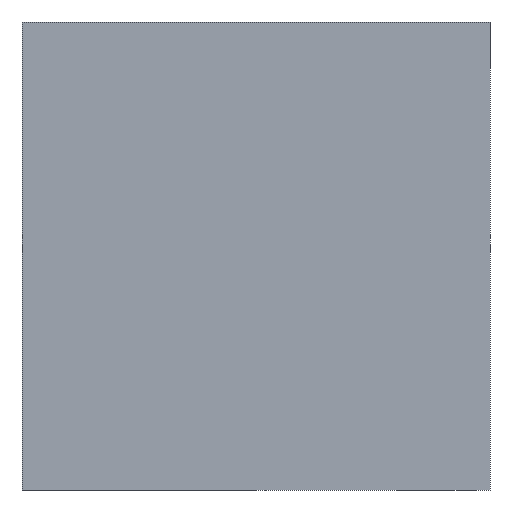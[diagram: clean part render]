
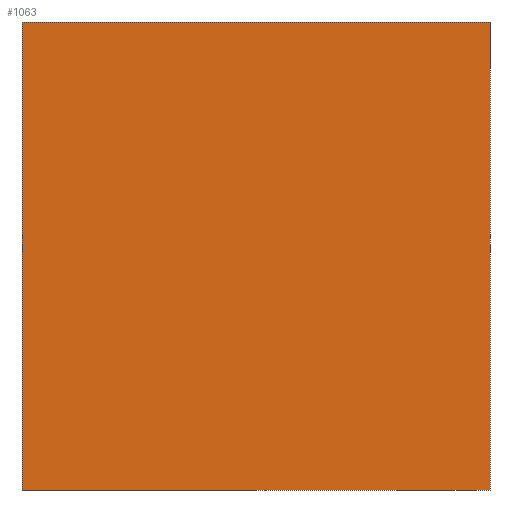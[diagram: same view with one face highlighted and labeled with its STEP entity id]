
A CAD part, left-side view. The second image highlights one B-rep face of the part: STEP entity #1063.
In plain terms, the highlighted planar face has unit normal (-1, 0, 0).
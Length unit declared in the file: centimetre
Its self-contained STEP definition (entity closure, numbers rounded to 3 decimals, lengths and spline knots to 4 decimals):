
#21 = PLANE ( 'NONE',  #887 ) ;
#85 = DIRECTION ( 'NONE',  ( 0., 0., -1. ) ) ;
#90 = FACE_OUTER_BOUND ( 'NONE', #781, .T. ) ;
#99 = LINE ( 'NONE', #305, #219 ) ;
#102 = CARTESIAN_POINT ( 'NONE',  ( 0., 1000., 1000. ) ) ;
#109 = LINE ( 'NONE', #655, #467 ) ;
#154 = ORIENTED_EDGE ( 'NONE', *, *, #529, .F. ) ;
#219 = VECTOR ( 'NONE', #299, 100. ) ;
#233 = ORIENTED_EDGE ( 'NONE', *, *, #325, .T. ) ;
#290 = LINE ( 'NONE', #460, #816 ) ;
#299 = DIRECTION ( 'NONE',  ( 0., -1., 0. ) ) ;
#302 = DIRECTION ( 'NONE',  ( 0., 0., -1. ) ) ;
#305 = CARTESIAN_POINT ( 'NONE',  ( 0., 1000., 0. ) ) ;
#315 = VERTEX_POINT ( 'NONE', #1084 ) ;
#322 = VERTEX_POINT ( 'NONE', #394 ) ;
#325 = EDGE_CURVE ( 'NONE', #315, #994, #99, .T. ) ;
#383 = LINE ( 'NONE', #965, #1092 ) ;
#394 = CARTESIAN_POINT ( 'NONE',  ( 0., 0., 1000. ) ) ;
#460 = CARTESIAN_POINT ( 'NONE',  ( 0., 0., 1000. ) ) ;
#467 = VECTOR ( 'NONE', #1064, 100. ) ;
#497 = DIRECTION ( 'NONE',  ( 0., 0., -1. ) ) ;
#529 = EDGE_CURVE ( 'NONE', #322, #994, #290, .T. ) ;
#655 = CARTESIAN_POINT ( 'NONE',  ( 0., 1000., 1000. ) ) ;
#781 = EDGE_LOOP ( 'NONE', ( #233, #154, #895, #818 ) ) ;
#816 = VECTOR ( 'NONE', #85, 100. ) ;
#818 = ORIENTED_EDGE ( 'NONE', *, *, #1022, .T. ) ;
#887 = AXIS2_PLACEMENT_3D ( 'NONE', #102, #948, #302 ) ;
#895 = ORIENTED_EDGE ( 'NONE', *, *, #992, .F. ) ;
#948 = DIRECTION ( 'NONE',  ( 1., 0., 0. ) ) ;
#965 = CARTESIAN_POINT ( 'NONE',  ( 0., 1000., 1000. ) ) ;
#992 = EDGE_CURVE ( 'NONE', #1000, #322, #109, .T. ) ;
#994 = VERTEX_POINT ( 'NONE', #1047 ) ;
#1000 = VERTEX_POINT ( 'NONE', #1164 ) ;
#1022 = EDGE_CURVE ( 'NONE', #1000, #315, #383, .T. ) ;
#1047 = CARTESIAN_POINT ( 'NONE',  ( 0., 0., 0. ) ) ;
#1063 = ADVANCED_FACE ( 'NONE', ( #90 ), #21, .F. ) ;
#1064 = DIRECTION ( 'NONE',  ( 0., -1., 0. ) ) ;
#1084 = CARTESIAN_POINT ( 'NONE',  ( 0., 1000., 0. ) ) ;
#1092 = VECTOR ( 'NONE', #497, 100. ) ;
#1164 = CARTESIAN_POINT ( 'NONE',  ( 0., 1000., 1000. ) ) ;
